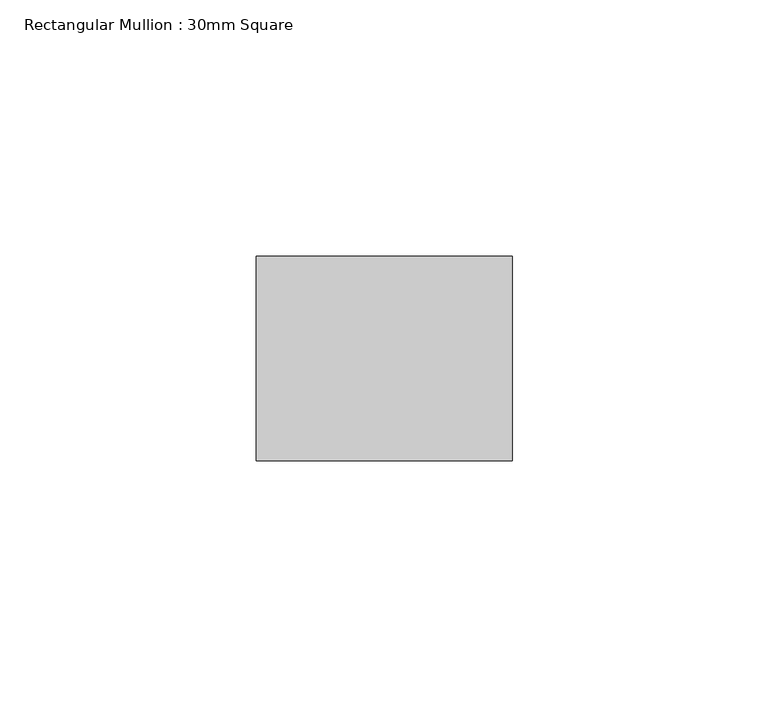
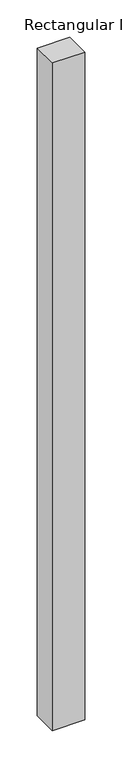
"""IFC4 building model written with IfcOpenShell, lengths in millimetres: member geometry, Rectangular Mullion : 30mm Square."""

from ifc_helpers import new_model, si_unit, frame, origin, place, context, project, spatial, polyline, outline, extrude, source, transform, mapped, element, save


def rectangular_mullion_30mm_square_9a9e542b(model_context):
    return source(origin(), model_context, "Body", "SweptSolid", [
        extrude(outline(polyline([(25.0, 20.0), (25.0, -20.0), (-25.0, -20.0), (-25.0, 20.0), (25.0, 20.0)])), frame((0.0, 0.0, -1091.7444455), z_axis=(0.0, 0.0, 1.0), x_axis=(1.0, 0.0, 0.0)), (0.0, 0.0, 1.0), 1091.7444455),
    ])


if __name__ == "__main__":
    model = new_model("IFC4")
    model_context = context("Model", 3, world=origin())
    ifc_project = project(units=[si_unit("LENGTHUNIT", "METRE", prefix="MILLI")], contexts=[model_context])
    site = spatial("IfcSite", under=ifc_project)
    building = spatial("IfcBuilding", under=site)
    placement = place(None, origin())
    rectangular_mullion_30mm_square_shape = rectangular_mullion_30mm_square_9a9e542b(model_context)
    element("IfcMember", 1, ObjectType="Rectangular Mullion : 30mm Square", at=placement, inside=building, context=model_context, shape_type="MappedRepresentation", body=[
        mapped(rectangular_mullion_30mm_square_shape, transform((0.0, 0.0, 0.0), x_axis=(1.0, 0.0, 0.0), y_axis=(0.0, 1.0, 0.0), z_axis=(0.0, 0.0, 1.0))),
    ])
    save(model, "model.ifc")
